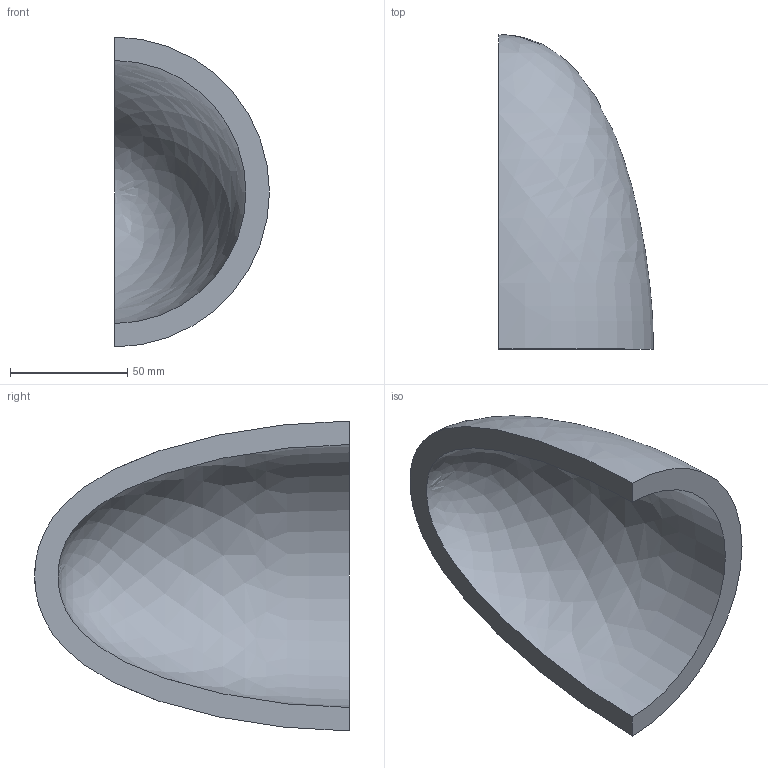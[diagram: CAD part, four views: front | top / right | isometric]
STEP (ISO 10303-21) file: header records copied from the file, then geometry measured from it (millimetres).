
FILE_DESCRIPTION(('CATIA V5 STEP Exchange'),'2;1');
FILE_NAME('C:\_Andres\UNIVERSIDAD\IQS\ASIGNATURAS\DAO\EXF\EXF-16172c\2inicio\Sastre_Cabrerizo_Ej10_v34.stp','2017-03-05T22:31:16+00:00',('none'),('none'),'CATIA Version 5-6 Release 2014 SP1 HF18','CATIA V5 STEP AP203','none');
FILE_SCHEMA(('CONFIG_CONTROL_DESIGN'));
Length unit declared in the file: millimetre
Products named in the file (1): Sastre_Cabrerizo_Ej10_v34
Bounding box: 66 x 134 x 132 mm (x, y, z)
Volume: 212523.5 mm3; surface area: 47629.7 mm2
Topology: 1 solids, 1 shells, 4 faces, 10 edges, 6 vertices
Faces by surface type: revolution 2, plane 2
Entity records: 254 total; most frequent: CARTESIAN_POINT 132, ORIENTED_EDGE 16, DIRECTION 10, EDGE_CURVE 8, B_SPLINE_CURVE_WITH_KNOTS 6, VERTEX_POINT 6, AXIS2_PLACEMENT_3D 5, ADVANCED_FACE 4
